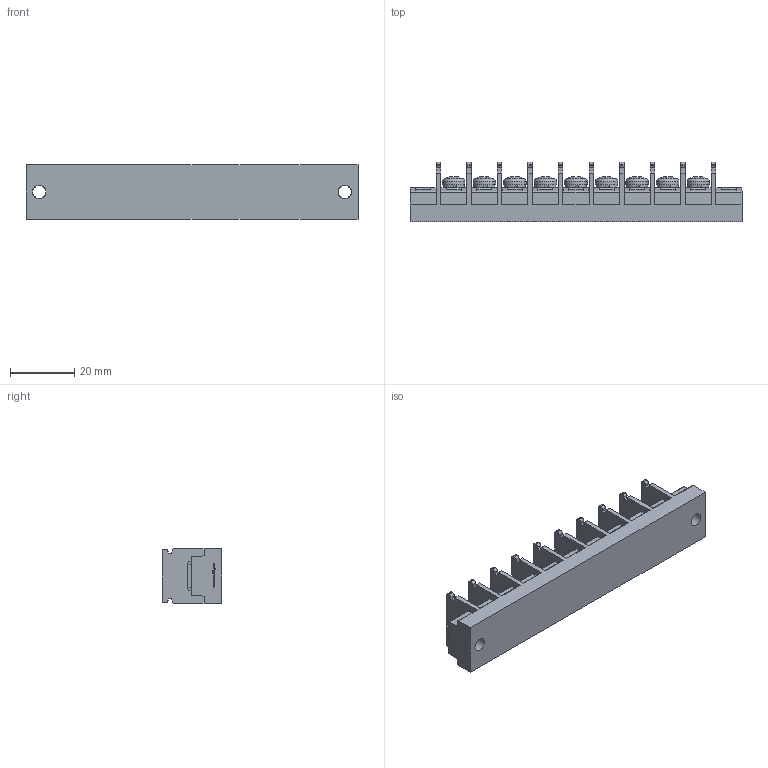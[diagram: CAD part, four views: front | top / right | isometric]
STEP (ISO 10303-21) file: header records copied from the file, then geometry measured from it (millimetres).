
FILE_DESCRIPTION(/* description */ ('Alibre Inc.'),/* implementation_level */ '2;1');
FILE_NAME(/* name */ 'export-209D08C9-8C4A-42B0-A519-7E143CFA4A90',/* time_stamp */ '2021-02-02T10:37:52+09:00',/* author */ (''),/* organization */ (''),/* preprocessor_version */ 'ST-DEVELOPER v17',/* originating_system */ 'Alibre',/* authorisation */ '');
FILE_SCHEMA (('CONFIG_CONTROL_DESIGN'));
Length unit declared in the file: millimetre
Bounding box: 103.2 x 18.5 x 17 mm (x, y, z)
Volume: 18121.2 mm3; surface area: 11443.5 mm2
Topology: 1 solids, 10 shells, 1070 faces, 2939 edges, 1951 vertices
Faces by surface type: plane 748, cylinder 146, bspline 104, cone 45, torus 18, sphere 9
Full cylindrical faces by diameter (mm): 4 x20, 4.2 x2, 6.5 x9, 7 x9
Entity records: 32861 total; most frequent: CARTESIAN_POINT 7060, ORIENTED_EDGE 5686, DIRECTION 4328, EDGE_CURVE 2843, VECTOR 1992, LINE 1992, VERTEX_POINT 1913, AXIS2_PLACEMENT_3D 1547
